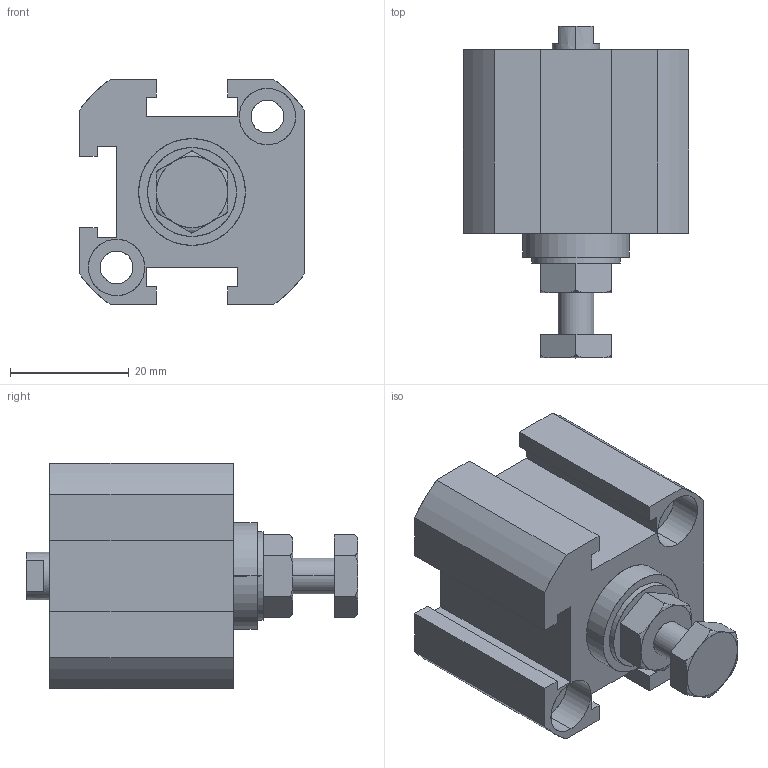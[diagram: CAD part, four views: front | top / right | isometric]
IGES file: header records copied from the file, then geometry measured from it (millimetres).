
Start section: SolidWorks IGES file using analytic representation for surfaces
Global section: file name: C:\Users\Toshiba\Desktop\XCA2-20-10.IGS; native system: SolidWorks 2014; preprocessor: SolidWorks 2014; author: Toshiba; date: 160524.103019; units: millimetre
Bounding box: 38 x 56 x 38 mm (x, y, z)
Surface area: 11909.9 mm2 (no closed solid volume)
Topology: 0 solids, 0 shells, 125 faces, 1943 edges, 1937 vertices
Faces by surface type: bspline 74, revolution 51
